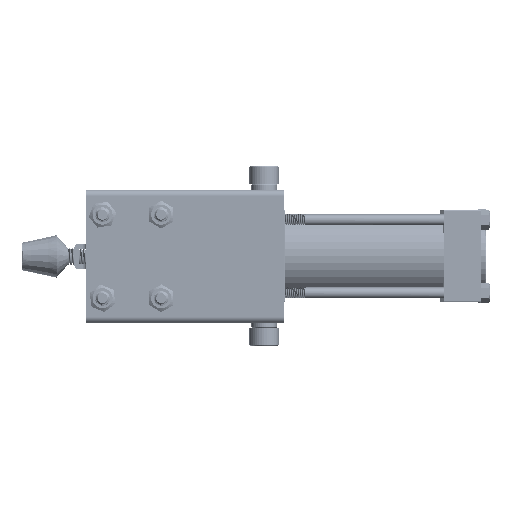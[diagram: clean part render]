
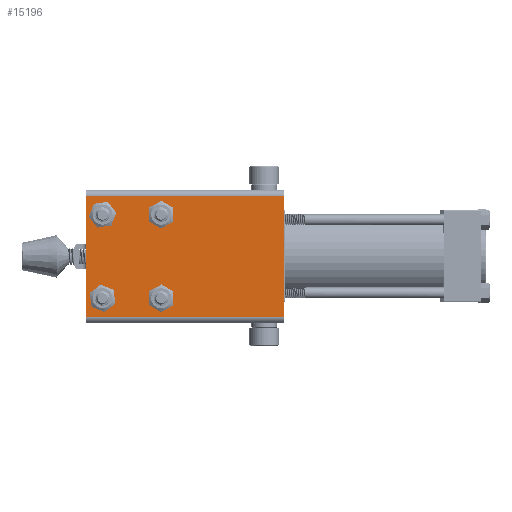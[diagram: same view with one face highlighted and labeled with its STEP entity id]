
A CAD part, front view. The second image highlights one B-rep face of the part: STEP entity #15196.
In plain terms, the highlighted planar face has unit normal (0, -1, 0).
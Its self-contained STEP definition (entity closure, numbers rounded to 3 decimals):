
#1223=FACE_BOUND('',#2576,.T.);
#1224=FACE_BOUND('',#2577,.T.);
#1225=FACE_BOUND('',#2578,.T.);
#1226=FACE_BOUND('',#2579,.T.);
#1360=PLANE('',#16448);
#1762=FACE_OUTER_BOUND('',#2575,.T.);
#2575=EDGE_LOOP('',(#10441,#10442,#10443,#10444));
#2576=EDGE_LOOP('',(#10445,#10446));
#2577=EDGE_LOOP('',(#10447,#10448));
#2578=EDGE_LOOP('',(#10449,#10450));
#2579=EDGE_LOOP('',(#10451,#10452));
#3526=LINE('',#21592,#4647);
#3527=LINE('',#21594,#4648);
#3528=LINE('',#21596,#4649);
#3529=LINE('',#21597,#4650);
#4647=VECTOR('',#17894,1000.);
#4648=VECTOR('',#17895,1000.);
#4649=VECTOR('',#17896,1000.);
#4650=VECTOR('',#17897,1000.);
#5737=CIRCLE('',#16408,4.35);
#5738=CIRCLE('',#16409,4.35);
#5741=CIRCLE('',#16413,4.35);
#5742=CIRCLE('',#16414,4.35);
#5745=CIRCLE('',#16418,4.35);
#5746=CIRCLE('',#16419,4.35);
#5749=CIRCLE('',#16423,4.35);
#5750=CIRCLE('',#16424,4.35);
#6300=VERTEX_POINT('',#21490);
#6301=VERTEX_POINT('',#21491);
#6304=VERTEX_POINT('',#21500);
#6305=VERTEX_POINT('',#21501);
#6308=VERTEX_POINT('',#21510);
#6309=VERTEX_POINT('',#21511);
#6312=VERTEX_POINT('',#21520);
#6313=VERTEX_POINT('',#21521);
#6340=VERTEX_POINT('',#21590);
#6341=VERTEX_POINT('',#21591);
#6342=VERTEX_POINT('',#21593);
#6343=VERTEX_POINT('',#21595);
#7958=EDGE_CURVE('',#6300,#6301,#5737,.T.);
#7959=EDGE_CURVE('',#6301,#6300,#5738,.T.);
#7963=EDGE_CURVE('',#6304,#6305,#5741,.T.);
#7964=EDGE_CURVE('',#6305,#6304,#5742,.T.);
#7968=EDGE_CURVE('',#6308,#6309,#5745,.T.);
#7969=EDGE_CURVE('',#6309,#6308,#5746,.T.);
#7973=EDGE_CURVE('',#6312,#6313,#5749,.T.);
#7974=EDGE_CURVE('',#6313,#6312,#5750,.T.);
#8007=EDGE_CURVE('',#6340,#6341,#3526,.T.);
#8008=EDGE_CURVE('',#6341,#6342,#3527,.T.);
#8009=EDGE_CURVE('',#6343,#6342,#3528,.T.);
#8010=EDGE_CURVE('',#6343,#6340,#3529,.T.);
#10441=ORIENTED_EDGE('',*,*,#8007,.T.);
#10442=ORIENTED_EDGE('',*,*,#8008,.T.);
#10443=ORIENTED_EDGE('',*,*,#8009,.F.);
#10444=ORIENTED_EDGE('',*,*,#8010,.T.);
#10445=ORIENTED_EDGE('',*,*,#7958,.T.);
#10446=ORIENTED_EDGE('',*,*,#7959,.T.);
#10447=ORIENTED_EDGE('',*,*,#7963,.T.);
#10448=ORIENTED_EDGE('',*,*,#7964,.T.);
#10449=ORIENTED_EDGE('',*,*,#7968,.T.);
#10450=ORIENTED_EDGE('',*,*,#7969,.T.);
#10451=ORIENTED_EDGE('',*,*,#7973,.T.);
#10452=ORIENTED_EDGE('',*,*,#7974,.T.);
#15196=ADVANCED_FACE('',(#1762,#1223,#1224,#1225,#1226),#1360,.F.);
#16408=AXIS2_PLACEMENT_3D('',#21492,#17793,#17794);
#16409=AXIS2_PLACEMENT_3D('',#21493,#17795,#17796);
#16413=AXIS2_PLACEMENT_3D('',#21502,#17804,#17805);
#16414=AXIS2_PLACEMENT_3D('',#21503,#17806,#17807);
#16418=AXIS2_PLACEMENT_3D('',#21512,#17815,#17816);
#16419=AXIS2_PLACEMENT_3D('',#21513,#17817,#17818);
#16423=AXIS2_PLACEMENT_3D('',#21522,#17826,#17827);
#16424=AXIS2_PLACEMENT_3D('',#21523,#17828,#17829);
#16448=AXIS2_PLACEMENT_3D('',#21589,#17892,#17893);
#17793=DIRECTION('center_axis',(0.,1.,0.));
#17794=DIRECTION('ref_axis',(0.,0.,1.));
#17795=DIRECTION('center_axis',(0.,1.,0.));
#17796=DIRECTION('ref_axis',(0.,0.,1.));
#17804=DIRECTION('center_axis',(0.,1.,0.));
#17805=DIRECTION('ref_axis',(0.,0.,1.));
#17806=DIRECTION('center_axis',(0.,1.,0.));
#17807=DIRECTION('ref_axis',(0.,0.,1.));
#17815=DIRECTION('center_axis',(0.,1.,0.));
#17816=DIRECTION('ref_axis',(0.,0.,1.));
#17817=DIRECTION('center_axis',(0.,1.,0.));
#17818=DIRECTION('ref_axis',(0.,0.,1.));
#17826=DIRECTION('center_axis',(0.,1.,0.));
#17827=DIRECTION('ref_axis',(0.,0.,1.));
#17828=DIRECTION('center_axis',(0.,1.,0.));
#17829=DIRECTION('ref_axis',(0.,0.,1.));
#17892=DIRECTION('center_axis',(0.,1.,0.));
#17893=DIRECTION('ref_axis',(0.,0.,1.));
#17894=DIRECTION('',(0.,0.,-1.));
#17895=DIRECTION('',(1.,0.,0.));
#17896=DIRECTION('',(0.,0.,-1.));
#17897=DIRECTION('',(-1.,0.,0.));
#21490=CARTESIAN_POINT('',(-92.139,-65.04,58.65));
#21491=CARTESIAN_POINT('',(-83.439,-65.04,58.65));
#21492=CARTESIAN_POINT('Origin',(-87.789,-65.04,58.65));
#21493=CARTESIAN_POINT('Origin',(-87.789,-65.04,58.65));
#21500=CARTESIAN_POINT('',(-60.339,-65.04,58.65));
#21501=CARTESIAN_POINT('',(-51.639,-65.04,58.65));
#21502=CARTESIAN_POINT('Origin',(-55.989,-65.04,58.65));
#21503=CARTESIAN_POINT('Origin',(-55.989,-65.04,58.65));
#21510=CARTESIAN_POINT('',(-60.339,-65.04,13.35));
#21511=CARTESIAN_POINT('',(-51.639,-65.04,13.35));
#21512=CARTESIAN_POINT('Origin',(-55.989,-65.04,13.35));
#21513=CARTESIAN_POINT('Origin',(-55.989,-65.04,13.35));
#21520=CARTESIAN_POINT('',(-92.139,-65.04,13.35));
#21521=CARTESIAN_POINT('',(-83.439,-65.04,13.35));
#21522=CARTESIAN_POINT('Origin',(-87.789,-65.04,13.35));
#21523=CARTESIAN_POINT('Origin',(-87.789,-65.04,13.35));
#21589=CARTESIAN_POINT('Origin',(10.311,-65.04,72.));
#21590=CARTESIAN_POINT('',(-96.489,-65.04,69.));
#21591=CARTESIAN_POINT('',(-96.489,-65.04,3.));
#21592=CARTESIAN_POINT('',(-96.489,-65.04,72.));
#21593=CARTESIAN_POINT('',(10.311,-65.04,3.));
#21594=CARTESIAN_POINT('',(10.311,-65.04,3.));
#21595=CARTESIAN_POINT('',(10.311,-65.04,69.));
#21596=CARTESIAN_POINT('',(10.311,-65.04,72.));
#21597=CARTESIAN_POINT('',(-96.489,-65.04,69.));
